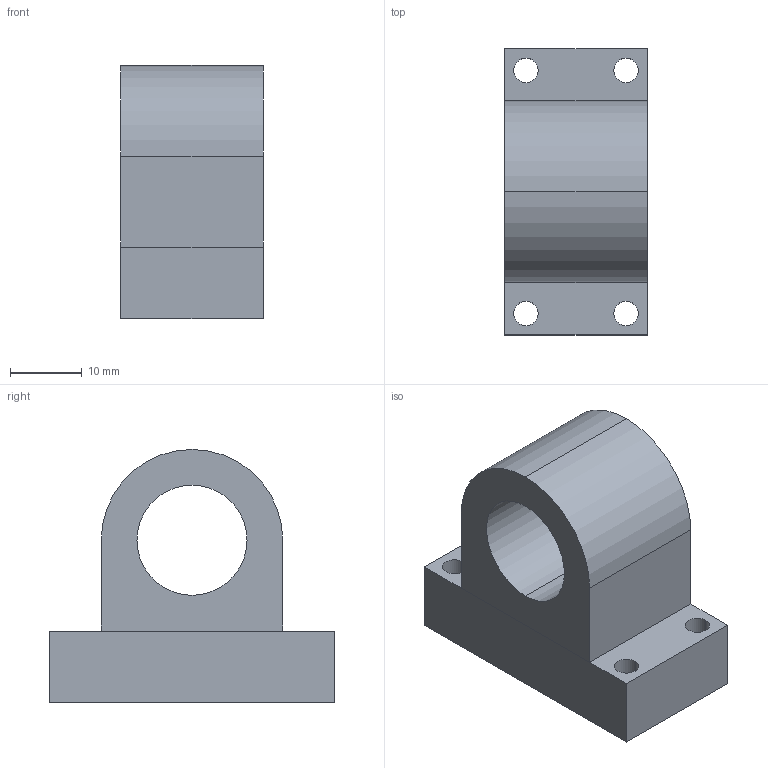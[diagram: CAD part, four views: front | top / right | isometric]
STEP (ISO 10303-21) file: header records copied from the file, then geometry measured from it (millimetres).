
FILE_DESCRIPTION (( 'STEP AP214' ), '1' );
FILE_NAME ('supporto_asse_z.STEP', '2017-04-06T16:52:01', ( '' ), ( '' ), 'SwSTEP 2.0', 'SolidWorks 2016', '' );
FILE_SCHEMA (( 'AUTOMOTIVE_DESIGN' ));
Length unit declared in the file: millimetre
Products named in the file (1): supporto_asse_z
Bounding box: 20 x 40 x 35.4 mm (x, y, z)
Volume: 15430.2 mm3; surface area: 5699.5 mm2
Topology: 1 solids, 1 shells, 22 faces, 58 edges, 38 vertices
Faces by surface type: cylinder 12, plane 10
Entity records: 745 total; most frequent: DIRECTION 127, CARTESIAN_POINT 122, ORIENTED_EDGE 116, EDGE_CURVE 58, AXIS2_PLACEMENT_3D 47, VERTEX_POINT 38, LINE 33, VECTOR 33
